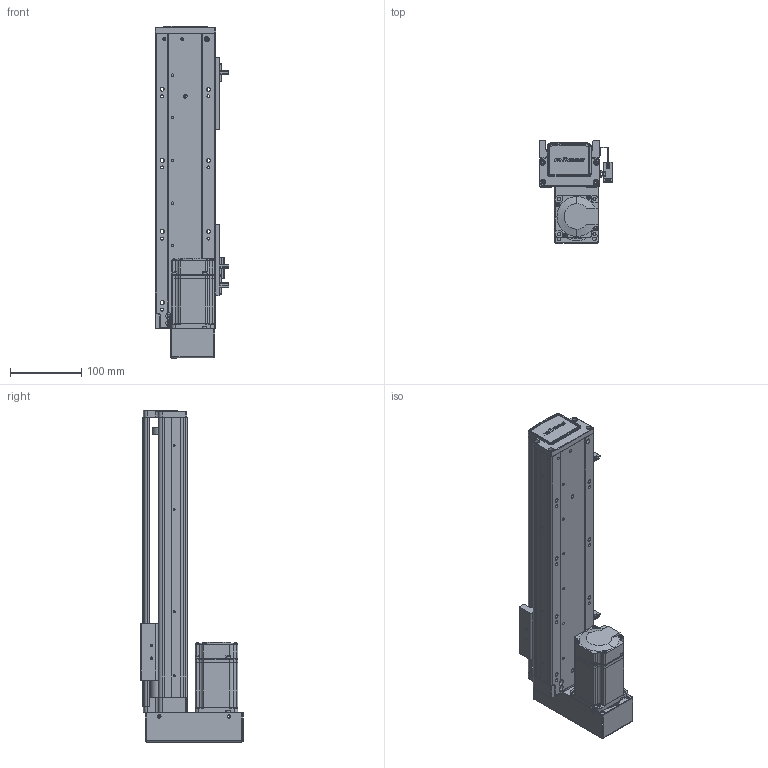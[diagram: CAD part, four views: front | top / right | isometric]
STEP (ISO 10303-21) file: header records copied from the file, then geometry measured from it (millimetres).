
FILE_DESCRIPTION (( 'STEP AP203' ), '1' );
FILE_NAME ('RY80-L1620-300-BK.SLDASM_250.step', '2021-02-20T07:10:26', ( '盈信电脑' ), ( '东莞市道滘镇水果街19号' ), 'SwSTEP 2.0', 'SolidWorks 2012', '' );
FILE_SCHEMA (( 'CONFIG_CONTROL_DESIGN' ));
Length unit declared in the file: millimetre
Products named in the file (15): RY80-300蛌諉倰第菁釱-BK_250; RY80臏賑輸; RY80-300蛌諉倰第奻裔啣-BK_250; 滅袉蝶18-24; RY80-L1620-300-BK.SLDASM_250; 侂狟200W萇儂; RY80狟殏俋欶; RY80狟殏萇儂假蚾啣; RY80俋离覜茼え; RY80转接电机端支撑座; 1; 覜茼ん672; RY80綴裔啣; 滅袉蝶18-10; T倰羞
Assembly tree (17 placements, depth 3):
  RY80-L1620-300-BK.SLDASM_250
    RY80-300蛌諉倰第菁釱-BK_250
    RY80臏賑輸
    RY80-300蛌諉倰第奻裔啣-BK_250
    RY80綴裔啣
    滅袉蝶18-10
    T倰羞  x2
    覜茼ん672  x3
    RY80俋离覜茼え
    RY80转接电机端支撑座
    侂狟200W萇儂
      1
    RY80狟殏萇儂假蚾啣
    RY80狟殏俋欶
    滅袉蝶18-24
Bounding box: 103.7 x 144 x 467 mm (x, y, z)
Volume: 1163070.8 mm3; surface area: 427274.7 mm2
Topology: 16 solids, 16 shells, 2053 faces, 5631 edges, 3647 vertices
Faces by surface type: plane 1148, cylinder 711, cone 132, bspline 62
Entity records: 64243 total; most frequent: CARTESIAN_POINT 15876, ORIENTED_EDGE 9958, DIRECTION 9362, EDGE_CURVE 4979, VERTEX_POINT 3263, VECTOR 3172, LINE 3172, AXIS2_PLACEMENT_3D 3095
